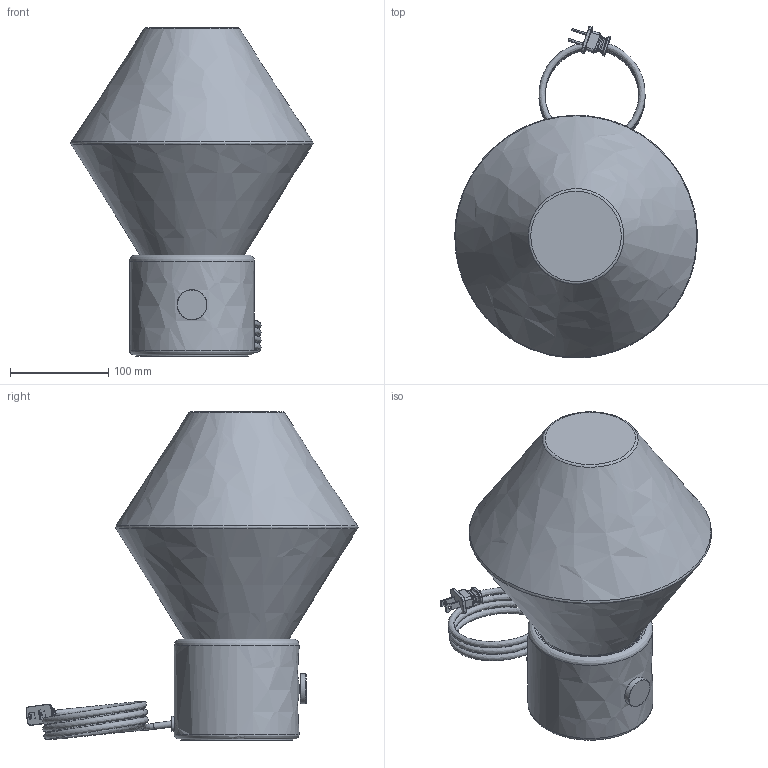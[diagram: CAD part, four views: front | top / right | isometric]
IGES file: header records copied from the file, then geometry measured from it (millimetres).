
Global section: file name: Trove - Ionic Table Lamp; native system: unknown; preprocessor: unknown; author: unknown; organization: unknown; date: 20240726.162611; units: inch
Bounding box: 246.6 x 337.61 x 334.51 mm (x, y, z)
Volume: 1471685.1 mm3; surface area: 619997.1 mm2
Topology: 17 solids, 17 shells, 2010 faces, 5361 edges, 3533 vertices
Faces by surface type: bspline 2009, revolution 1
